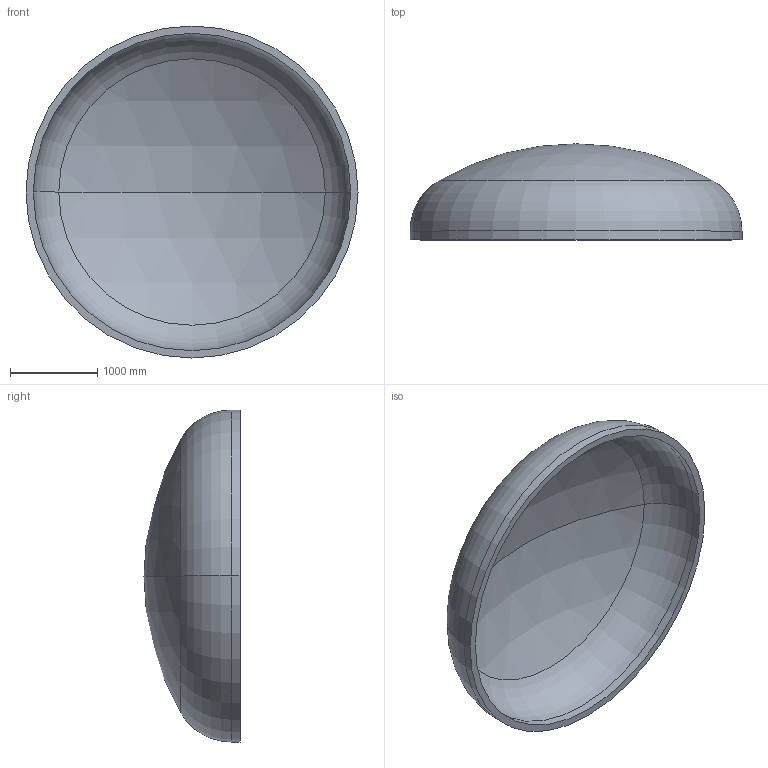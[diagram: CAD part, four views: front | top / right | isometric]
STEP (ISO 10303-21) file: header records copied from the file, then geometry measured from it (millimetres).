
FILE_DESCRIPTION (( 'STEP AP203' ), '1' );
FILE_NAME ('DIN 28013 Korbbogenform_-_Boden DIN 28013 - 3800 x 100 - I - s=84.step', '2016-07-01T21:42:23', ( '' ), ( '' ), 'SwSTEP 2.0', 'SolidWorks 2013', '' );
FILE_SCHEMA (( 'CONFIG_CONTROL_DESIGN' ));
Length unit declared in the file: millimetre
Products named in the file (1): DIN 28013 Korbbogenform_-_Boden DIN 28013 - 3800 x 100 - I - s=84
Bounding box: 3800 x 1099.93 x 3800 mm (x, y, z)
Volume: 1379603975.4 mm3; surface area: 33843109.6 mm2
Topology: 1 solids, 1 shells, 13 faces, 24 edges, 14 vertices
Faces by surface type: torus 4, cylinder 4, sphere 4, plane 1
Entity records: 407 total; most frequent: DIRECTION 72, CARTESIAN_POINT 52, ORIENTED_EDGE 48, AXIS2_PLACEMENT_3D 34, EDGE_CURVE 24, CIRCLE 20, VERTEX_POINT 14, EDGE_LOOP 14
